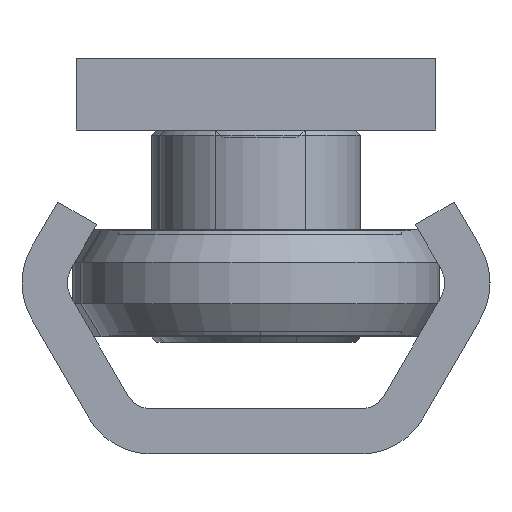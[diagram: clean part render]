
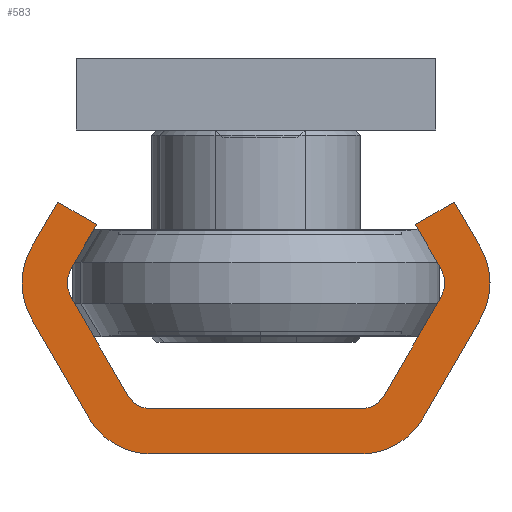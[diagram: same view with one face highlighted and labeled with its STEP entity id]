
A CAD part, left-side view. The second image highlights one B-rep face of the part: STEP entity #583.
In plain terms, the highlighted planar face has unit normal (-1, 0, 0).
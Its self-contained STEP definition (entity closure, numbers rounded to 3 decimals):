
#583 = ADVANCED_FACE( '', ( #1237 ), #1238, .F. );
#1237 = FACE_OUTER_BOUND( '', #2081, .T. );
#1238 = PLANE( '', #2082 );
#2081 = EDGE_LOOP( '', ( #3218, #3219, #3220, #3221, #3222, #3223, #3224, #3225, #3226, #3227, #3228, #3229, #3230, #3231, #3232, #3233, #3234, #3235, #3236, #3237 ) );
#2082 = AXIS2_PLACEMENT_3D( '', #3238, #3239, #3240 );
#3218 = ORIENTED_EDGE( '', *, *, #3759, .F. );
#3219 = ORIENTED_EDGE( '', *, *, #3637, .F. );
#3220 = ORIENTED_EDGE( '', *, *, #3570, .F. );
#3221 = ORIENTED_EDGE( '', *, *, #3787, .F. );
#3222 = ORIENTED_EDGE( '', *, *, #3964, .F. );
#3223 = ORIENTED_EDGE( '', *, *, #3924, .F. );
#3224 = ORIENTED_EDGE( '', *, *, #3559, .F. );
#3225 = ORIENTED_EDGE( '', *, *, #3669, .T. );
#3226 = ORIENTED_EDGE( '', *, *, #3709, .F. );
#3227 = ORIENTED_EDGE( '', *, *, #3858, .T. );
#3228 = ORIENTED_EDGE( '', *, *, #3960, .F. );
#3229 = ORIENTED_EDGE( '', *, *, #3895, .T. );
#3230 = ORIENTED_EDGE( '', *, *, #3965, .F. );
#3231 = ORIENTED_EDGE( '', *, *, #3892, .T. );
#3232 = ORIENTED_EDGE( '', *, *, #3687, .F. );
#3233 = ORIENTED_EDGE( '', *, *, #3612, .F. );
#3234 = ORIENTED_EDGE( '', *, *, #3966, .F. );
#3235 = ORIENTED_EDGE( '', *, *, #3967, .F. );
#3236 = ORIENTED_EDGE( '', *, *, #3554, .F. );
#3237 = ORIENTED_EDGE( '', *, *, #3580, .F. );
#3238 = CARTESIAN_POINT( '', ( 0., -5.825, -4. ) );
#3239 = DIRECTION( '', ( 1., 0., 0. ) );
#3240 = DIRECTION( '', ( 0., 0., -1. ) );
#3554 = EDGE_CURVE( '', #4039, #4040, #4041, .T. );
#3559 = EDGE_CURVE( '', #4048, #4049, #4050, .T. );
#3570 = EDGE_CURVE( '', #4067, #4068, #4069, .T. );
#3580 = EDGE_CURVE( '', #4082, #4039, #4083, .T. );
#3612 = EDGE_CURVE( '', #4139, #4140, #4141, .T. );
#3637 = EDGE_CURVE( '', #4068, #4181, #4182, .T. );
#3669 = EDGE_CURVE( '', #4048, #4228, #4229, .T. );
#3687 = EDGE_CURVE( '', #4140, #4261, #4262, .T. );
#3709 = EDGE_CURVE( '', #4295, #4228, #4296, .T. );
#3759 = EDGE_CURVE( '', #4181, #4082, #4379, .T. );
#3787 = EDGE_CURVE( '', #4420, #4067, #4421, .T. );
#3858 = EDGE_CURVE( '', #4295, #4524, #4525, .T. );
#3892 = EDGE_CURVE( '', #4576, #4261, #4577, .T. );
#3895 = EDGE_CURVE( '', #4580, #4581, #4582, .T. );
#3924 = EDGE_CURVE( '', #4049, #4617, #4618, .T. );
#3960 = EDGE_CURVE( '', #4580, #4524, #4667, .T. );
#3964 = EDGE_CURVE( '', #4617, #4420, #4671, .T. );
#3965 = EDGE_CURVE( '', #4576, #4581, #4672, .T. );
#3966 = EDGE_CURVE( '', #4673, #4139, #4674, .T. );
#3967 = EDGE_CURVE( '', #4040, #4673, #4675, .T. );
#4039 = VERTEX_POINT( '', #4758 );
#4040 = VERTEX_POINT( '', #4759 );
#4041 = LINE( '', #4760, #4761 );
#4048 = VERTEX_POINT( '', #4771 );
#4049 = VERTEX_POINT( '', #4772 );
#4050 = LINE( '', #4773, #4774 );
#4067 = VERTEX_POINT( '', #4794 );
#4068 = VERTEX_POINT( '', #4795 );
#4069 = LINE( '', #4796, #4797 );
#4082 = VERTEX_POINT( '', #4813 );
#4083 = CIRCLE( '', #4814, 4. );
#4139 = VERTEX_POINT( '', #4875 );
#4140 = VERTEX_POINT( '', #4876 );
#4141 = LINE( '', #4877, #4878 );
#4181 = VERTEX_POINT( '', #4921 );
#4182 = CIRCLE( '', #4922, 4. );
#4228 = VERTEX_POINT( '', #4978 );
#4229 = CIRCLE( '', #4979, 1.5 );
#4261 = VERTEX_POINT( '', #5012 );
#4262 = LINE( '', #5013, #5014 );
#4295 = VERTEX_POINT( '', #5057 );
#4296 = LINE( '', #5058, #5059 );
#4379 = LINE( '', #5155, #5156 );
#4420 = VERTEX_POINT( '', #5200 );
#4421 = CIRCLE( '', #5201, 4. );
#4524 = VERTEX_POINT( '', #5322 );
#4525 = CIRCLE( '', #5323, 1.5 );
#4576 = VERTEX_POINT( '', #5382 );
#4577 = CIRCLE( '', #5383, 1.5 );
#4580 = VERTEX_POINT( '', #5387 );
#4581 = VERTEX_POINT( '', #5388 );
#4582 = CIRCLE( '', #5389, 1.5 );
#4617 = VERTEX_POINT( '', #5434 );
#4618 = LINE( '', #5435, #5436 );
#4667 = LINE( '', #5489, #5490 );
#4671 = LINE( '', #5494, #5495 );
#4672 = LINE( '', #5496, #5497 );
#4673 = VERTEX_POINT( '', #5498 );
#4674 = LINE( '', #5499, #5500 );
#4675 = CIRCLE( '', #5501, 4. );
#4758 = CARTESIAN_POINT( '', ( 0., -9.289, -2. ) );
#4759 = CARTESIAN_POINT( '', ( 0., -12.464, -7.5 ) );
#4760 = CARTESIAN_POINT( '', ( 0., -9.289, -2. ) );
#4761 = VECTOR( '', #5598, 1000. );
#4771 = CARTESIAN_POINT( '', ( 0., 10.299, -10.25 ) );
#4772 = CARTESIAN_POINT( '', ( 0., 8.856, -12.75 ) );
#4773 = CARTESIAN_POINT( '', ( 0., 10.299, -10.25 ) );
#4774 = VECTOR( '', #5602, 1000. );
#4794 = CARTESIAN_POINT( '', ( 0., 12.464, -7.5 ) );
#4795 = CARTESIAN_POINT( '', ( 0., 9.289, -2. ) );
#4796 = CARTESIAN_POINT( '', ( 0., 12.464, -7.5 ) );
#4797 = VECTOR( '', #5618, 1000. );
#4813 = CARTESIAN_POINT( '', ( 0., -5.825, 0. ) );
#4814 = AXIS2_PLACEMENT_3D( '', #5628, #5629, #5630 );
#4875 = CARTESIAN_POINT( '', ( 0., -11.021, -14. ) );
#4876 = CARTESIAN_POINT( '', ( 0., -8.856, -12.75 ) );
#4877 = CARTESIAN_POINT( '', ( 0., -11.021, -14. ) );
#4878 = VECTOR( '', #5699, 1000. );
#4921 = CARTESIAN_POINT( '', ( 0., 5.825, 0. ) );
#4922 = AXIS2_PLACEMENT_3D( '', #5742, #5743, #5744 );
#4978 = CARTESIAN_POINT( '', ( 0., 10.299, -8.75 ) );
#4979 = AXIS2_PLACEMENT_3D( '', #5785, #5786, #5787 );
#5012 = CARTESIAN_POINT( '', ( 0., -10.299, -10.25 ) );
#5013 = CARTESIAN_POINT( '', ( 0., -8.856, -12.75 ) );
#5014 = VECTOR( '', #5831, 1000. );
#5057 = CARTESIAN_POINT( '', ( 0., 7.124, -3.25 ) );
#5058 = CARTESIAN_POINT( '', ( 0., 7.124, -3.25 ) );
#5059 = VECTOR( '', #5857, 1000. );
#5155 = CARTESIAN_POINT( '', ( 0., 5.825, 0. ) );
#5156 = VECTOR( '', #5955, 1000. );
#5200 = CARTESIAN_POINT( '', ( 0., 12.464, -11.5 ) );
#5201 = AXIS2_PLACEMENT_3D( '', #5998, #5999, #6000 );
#5322 = CARTESIAN_POINT( '', ( 0., 5.825, -2.5 ) );
#5323 = AXIS2_PLACEMENT_3D( '', #6088, #6089, #6090 );
#5382 = CARTESIAN_POINT( '', ( 0., -10.299, -8.75 ) );
#5383 = AXIS2_PLACEMENT_3D( '', #6132, #6133, #6134 );
#5387 = CARTESIAN_POINT( '', ( 0., -5.825, -2.5 ) );
#5388 = CARTESIAN_POINT( '', ( 0., -7.124, -3.25 ) );
#5389 = AXIS2_PLACEMENT_3D( '', #6136, #6137, #6138 );
#5434 = CARTESIAN_POINT( '', ( 0., 11.021, -14. ) );
#5435 = CARTESIAN_POINT( '', ( 0., 8.856, -12.75 ) );
#5436 = VECTOR( '', #6170, 1000. );
#5489 = CARTESIAN_POINT( '', ( 0., -5.825, -2.5 ) );
#5490 = VECTOR( '', #6223, 1000. );
#5494 = CARTESIAN_POINT( '', ( 0., 11.021, -14. ) );
#5495 = VECTOR( '', #6224, 1000. );
#5496 = CARTESIAN_POINT( '', ( 0., -10.299, -8.75 ) );
#5497 = VECTOR( '', #6225, 1000. );
#5498 = CARTESIAN_POINT( '', ( 0., -12.464, -11.5 ) );
#5499 = CARTESIAN_POINT( '', ( 0., -12.464, -11.5 ) );
#5500 = VECTOR( '', #6226, 1000. );
#5501 = AXIS2_PLACEMENT_3D( '', #6227, #6228, #6229 );
#5598 = DIRECTION( '', ( 0., -0.5, -0.866 ) );
#5602 = DIRECTION( '', ( 0., -0.5, -0.866 ) );
#5618 = DIRECTION( '', ( 0., -0.5, 0.866 ) );
#5628 = CARTESIAN_POINT( '', ( 0., -5.825, -4. ) );
#5629 = DIRECTION( '', ( 1., 0., 0. ) );
#5630 = DIRECTION( '', ( 0., 0., -1. ) );
#5699 = DIRECTION( '', ( 0., 0.866, 0.5 ) );
#5742 = CARTESIAN_POINT( '', ( 0., 5.825, -4. ) );
#5743 = DIRECTION( '', ( 1., 0., 0. ) );
#5744 = DIRECTION( '', ( 0., 0., -1. ) );
#5785 = CARTESIAN_POINT( '', ( 0., 9., -9.5 ) );
#5786 = DIRECTION( '', ( 1., 0., 0. ) );
#5787 = DIRECTION( '', ( 0., 0., -1. ) );
#5831 = DIRECTION( '', ( 0., -0.5, 0.866 ) );
#5857 = DIRECTION( '', ( 0., 0.5, -0.866 ) );
#5955 = DIRECTION( '', ( 0., -1., 0. ) );
#5998 = CARTESIAN_POINT( '', ( 0., 9., -9.5 ) );
#5999 = DIRECTION( '', ( 1., 0., 0. ) );
#6000 = DIRECTION( '', ( 0., 0., -1. ) );
#6088 = CARTESIAN_POINT( '', ( 0., 5.825, -4. ) );
#6089 = DIRECTION( '', ( 1., 0., 0. ) );
#6090 = DIRECTION( '', ( 0., 0., -1. ) );
#6132 = CARTESIAN_POINT( '', ( 0., -9., -9.5 ) );
#6133 = DIRECTION( '', ( 1., 0., 0. ) );
#6134 = DIRECTION( '', ( 0., 0., -1. ) );
#6136 = CARTESIAN_POINT( '', ( 0., -5.825, -4. ) );
#6137 = DIRECTION( '', ( 1., 0., 0. ) );
#6138 = DIRECTION( '', ( 0., 0., -1. ) );
#6170 = DIRECTION( '', ( 0., 0.866, -0.5 ) );
#6223 = DIRECTION( '', ( 0., 1., 0. ) );
#6224 = DIRECTION( '', ( 0., 0.5, 0.866 ) );
#6225 = DIRECTION( '', ( 0., 0.5, 0.866 ) );
#6226 = DIRECTION( '', ( 0., 0.5, -0.866 ) );
#6227 = CARTESIAN_POINT( '', ( 0., -9., -9.5 ) );
#6228 = DIRECTION( '', ( 1., 0., 0. ) );
#6229 = DIRECTION( '', ( 0., 0., -1. ) );
